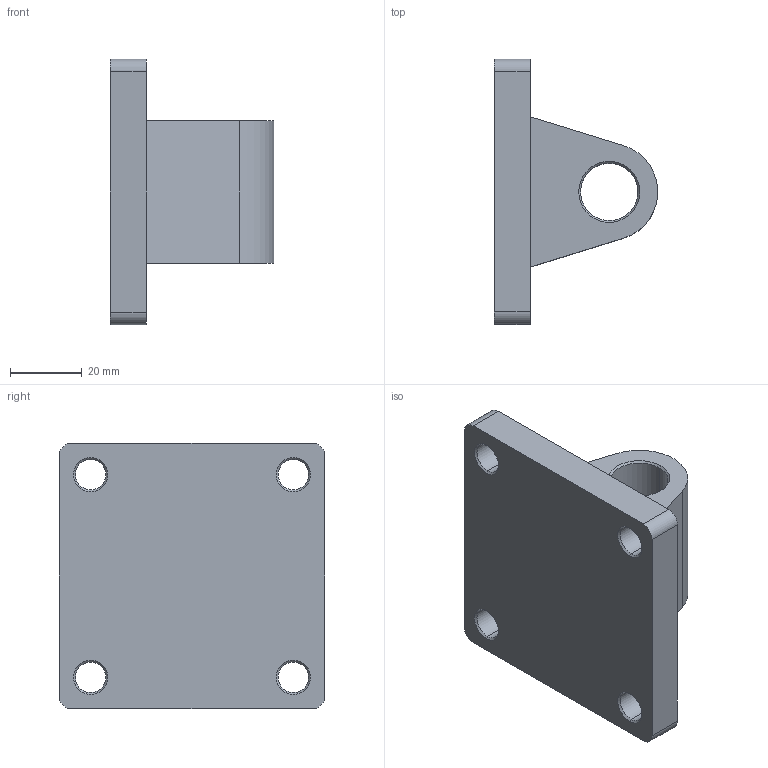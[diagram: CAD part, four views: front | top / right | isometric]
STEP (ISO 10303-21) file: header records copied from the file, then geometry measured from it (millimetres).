
FILE_DESCRIPTION (( 'STEP AP214' ), '1' );
FILE_NAME ('F-SI63CA.STEP', '2016-02-16T15:59:21', ( '' ), ( '' ), 'SwSTEP 2.0', 'SolidWorks 2016', '' );
FILE_SCHEMA (( 'AUTOMOTIVE_DESIGN' ));
Length unit declared in the file: millimetre
Products named in the file (1): F-SI63CA
Bounding box: 45.45 x 74 x 74 mm (x, y, z)
Volume: 86048.9 mm3; surface area: 19943 mm2
Topology: 1 solids, 1 shells, 65 faces, 146 edges, 88 vertices
Faces by surface type: cone 28, cylinder 23, plane 14
Entity records: 1864 total; most frequent: DIRECTION 352, CARTESIAN_POINT 300, ORIENTED_EDGE 292, EDGE_CURVE 146, AXIS2_PLACEMENT_3D 140, VERTEX_POINT 88, EDGE_LOOP 80, CIRCLE 74
